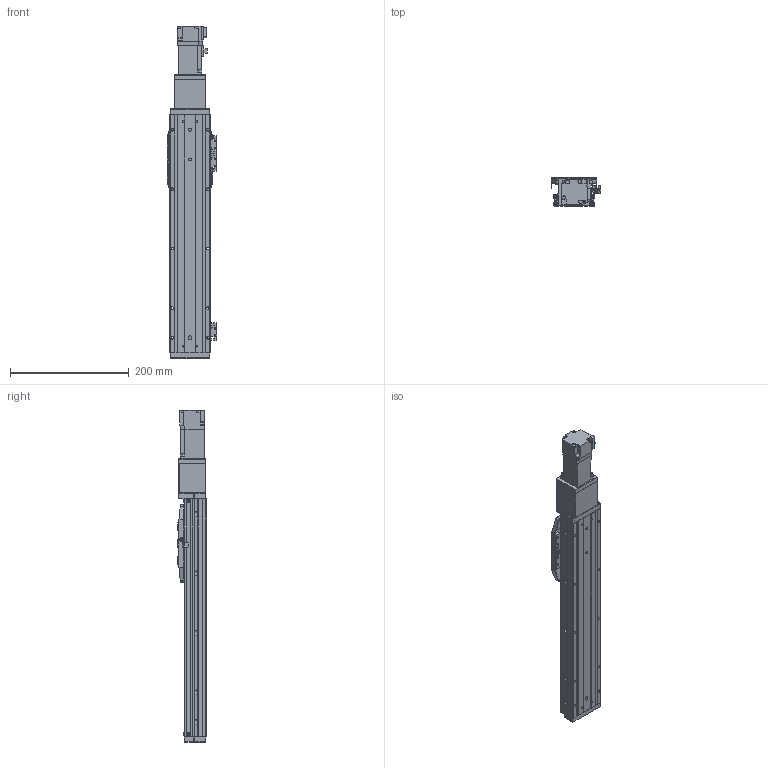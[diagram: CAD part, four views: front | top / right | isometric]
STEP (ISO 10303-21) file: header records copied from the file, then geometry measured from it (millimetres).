
FILE_DESCRIPTION (( 'STEP AP214' ), '1' );
FILE_NAME ('CTHA60-250-BC-M10-C4L.step', '2022-03-19T06:09:44', ( '微软用户' ), ( '微软中国' ), 'SwSTEP 2.0', 'SolidWorks 2020', '' );
FILE_SCHEMA (( 'AUTOMOTIVE_DESIGN' ));
Length unit declared in the file: millimetre
Products named in the file (19): CTHA60-016; CTHA60-006; CTHA60-001_400; CTHA60-031; GB¨uT 70.2-M3¡Á6_M3¡Á6; CTHA60-021; GBT 70.1-M3℅6; CTHA60-027; HG-KR13（三菱）; CTHA60-004; CTHA60-250-BC-M10-C4L; EE_SX911P_R; GBT 70.1-M4×16; GBT 70.3-M3℅6; CTHA60-013; CTHA60-002; CTHA60-005; CTHA60-017; GBT77-2000 M3×3
Assembly tree (57 placements, depth 2):
  CTHA60-250-BC-M10-C4L
    CTHA60-001_400
    CTHA60-004
    CTHA60-005
    GB¨uT 70.2-M3¡Á6_M3¡Á6  x10
    EE_SX911P_R  x3
    CTHA60-017  x3
    CTHA60-021  x2
    GBT 70.1-M4×16  x10
    GBT77-2000 M3×3  x6
    GBT 70.1-M3℅6  x6
    GBT 70.3-M3℅6  x6
    CTHA60-016  x2
    CTHA60-027
    CTHA60-013
    CTHA60-006
    HG-KR13（三菱）
    CTHA60-002
    CTHA60-031
Bounding box: 83.12 x 48 x 558.6 mm (x, y, z)
Volume: 965798.9 mm3; surface area: 274056.7 mm2
Topology: 59 solids, 59 shells, 2415 faces, 5741 edges, 3515 vertices
Faces by surface type: plane 1402, cylinder 537, cone 356, torus 96, sphere 24
Entity records: 37818 total; most frequent: CARTESIAN_POINT 6368, DIRECTION 6272, ORIENTED_EDGE 6062, EDGE_CURVE 3031, LINE 2232, VECTOR 2232, AXIS2_PLACEMENT_3D 2020, VERTEX_POINT 1912
